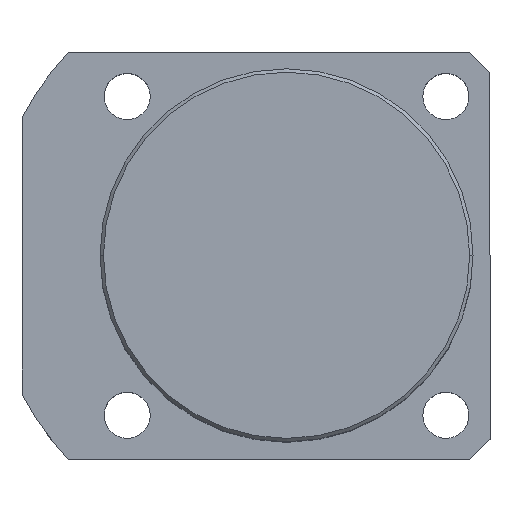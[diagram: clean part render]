
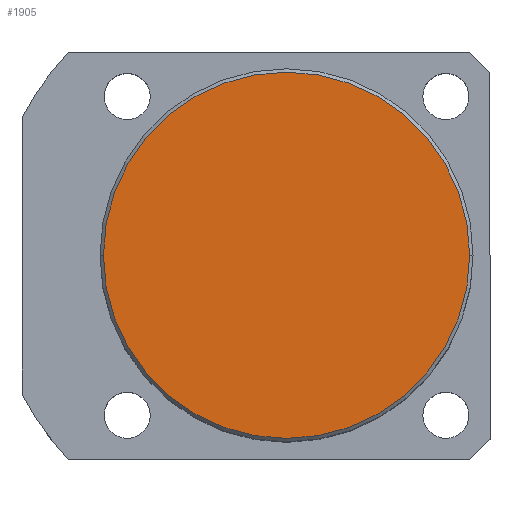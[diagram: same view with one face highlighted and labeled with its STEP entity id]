
A CAD part, top view. The second image highlights one B-rep face of the part: STEP entity #1905.
In plain terms, the highlighted planar face has unit normal (0, 0, 1).
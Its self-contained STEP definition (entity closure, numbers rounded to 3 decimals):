
#346 = EDGE_LOOP ( 'NONE', ( #1875, #1800 ) ) ;
#361 = DIRECTION ( 'NONE',  ( 1., 0., 0. ) ) ;
#363 = DIRECTION ( 'NONE',  ( 1., 0., 0. ) ) ;
#393 = CARTESIAN_POINT ( 'NONE',  ( -27., 0., 60. ) ) ;
#409 = FACE_OUTER_BOUND ( 'NONE', #346, .T. ) ;
#416 = AXIS2_PLACEMENT_3D ( 'NONE', #1771, #867, #1604 ) ;
#469 = CARTESIAN_POINT ( 'NONE',  ( 27., 0., 60. ) ) ;
#503 = CARTESIAN_POINT ( 'NONE',  ( 0., 0., 60. ) ) ;
#774 = EDGE_CURVE ( 'NONE', #1968, #1731, #1521, .T. ) ;
#867 = DIRECTION ( 'NONE',  ( 0., 0., 1. ) ) ;
#930 = CIRCLE ( 'NONE', #1820, 27. ) ;
#1015 = PLANE ( 'NONE',  #416 ) ;
#1268 = CARTESIAN_POINT ( 'NONE',  ( 0., 0., 60. ) ) ;
#1362 = EDGE_CURVE ( 'NONE', #1731, #1968, #930, .T. ) ;
#1521 = CIRCLE ( 'NONE', #1649, 27. ) ;
#1562 = DIRECTION ( 'NONE',  ( 0., 0., 1. ) ) ;
#1604 = DIRECTION ( 'NONE',  ( 1., 0., 0. ) ) ;
#1649 = AXIS2_PLACEMENT_3D ( 'NONE', #1268, #1865, #363 ) ;
#1731 = VERTEX_POINT ( 'NONE', #469 ) ;
#1771 = CARTESIAN_POINT ( 'NONE',  ( 0., 0., 60. ) ) ;
#1800 = ORIENTED_EDGE ( 'NONE', *, *, #1362, .T. ) ;
#1820 = AXIS2_PLACEMENT_3D ( 'NONE', #503, #1562, #361 ) ;
#1865 = DIRECTION ( 'NONE',  ( 0., 0., 1. ) ) ;
#1875 = ORIENTED_EDGE ( 'NONE', *, *, #774, .T. ) ;
#1905 = ADVANCED_FACE ( 'NONE', ( #409 ), #1015, .T. ) ;
#1968 = VERTEX_POINT ( 'NONE', #393 ) ;
